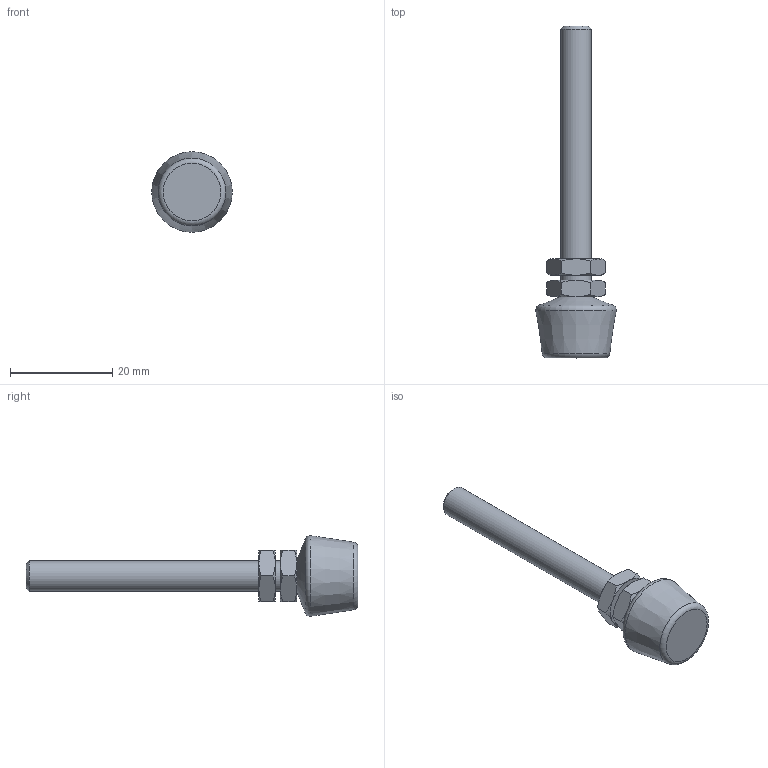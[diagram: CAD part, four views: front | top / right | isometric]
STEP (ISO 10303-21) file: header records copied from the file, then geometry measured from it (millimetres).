
FILE_DESCRIPTION( ( 'STEP AP203' ), '1' );
FILE_NAME( 'C:/Temp/Ganter_Step_05_03_2020/data/2_4/gn_708_1/gn_708_1_st/Clamping bolt GN 708.1-M6-65-A-ST (0).stp', '2020-03-13T05:51:06', ( 'License CC BY-ND 4.0' ), ( 'CADENAS' ), ' ', 'PARTsolutions', ' ' );
FILE_SCHEMA( ( 'CONFIG_CONTROL_DESIGN' ) );
Length unit declared in the file: millimetre
Products named in the file (3): Clamping bolt GN 708.1-M6-65-A-ST (0); _Andrueckschraube GN 708.1-M6-65-A-ST (0)-1; _Andrueckschraube GN 708.1-M6-65-A-ST2
Assembly tree (3 placements, depth 2):
  Clamping bolt GN 708.1-M6-65-A-ST (0)
    _Andrueckschraube GN 708.1-M6-65-A-ST (0)-1
    _Andrueckschraube GN 708.1-M6-65-A-ST2  x2
Bounding box: 15.78 x 65 x 15.78 mm (x, y, z)
Volume: 3762.2 mm3; surface area: 2330.9 mm2
Topology: 3 solids, 3 shells, 54 faces, 111 edges, 63 vertices
Faces by surface type: cone 31, plane 18, cylinder 3, torus 2
Full cylindrical faces by diameter (mm): 4.917 x2, 6 x1
Entity records: 938 total; most frequent: CARTESIAN_POINT 244, DIRECTION 122, ORIENTED_EDGE 106, AXIS2_PLACEMENT_3D 58, EDGE_CURVE 53, EDGE_LOOP 42, VERTEX_POINT 36, FACE_OUTER_BOUND 35
